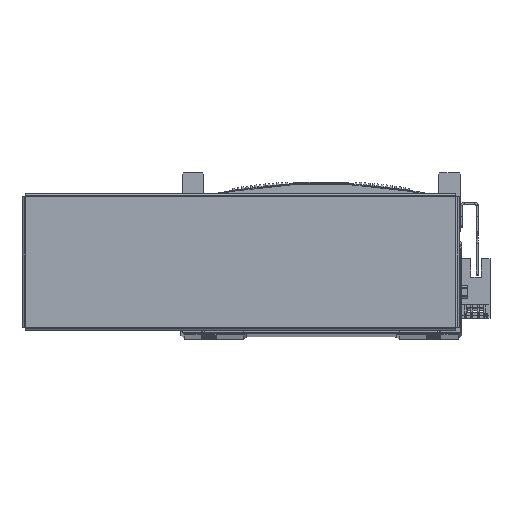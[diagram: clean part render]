
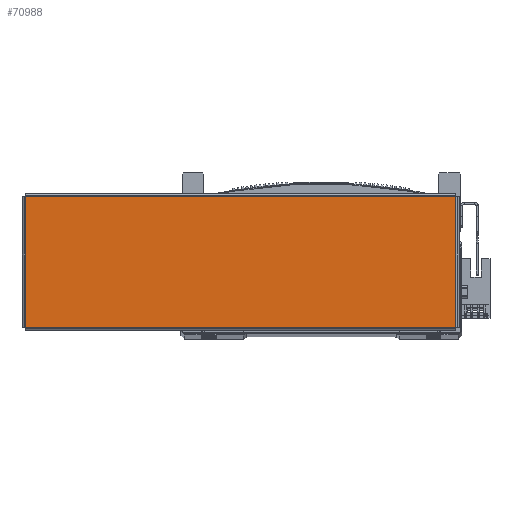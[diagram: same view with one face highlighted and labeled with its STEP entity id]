
A CAD part, top view. The second image highlights one B-rep face of the part: STEP entity #70988.
In plain terms, the highlighted planar face has unit normal (0, 0, 1) as drawn and (0, -1, 0) by its records, which use the part's own axes.
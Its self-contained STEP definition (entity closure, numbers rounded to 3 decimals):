
#6035 = VECTOR ( 'NONE', #7944, 1000. ) ;
#6046 = LINE ( 'NONE', #7883, #6035 ) ;
#6089 = LINE ( 'NONE', #7988, #6148 ) ;
#6110 = VECTOR ( 'NONE', #7929, 1000. ) ;
#6147 = LINE ( 'NONE', #7942, #6110 ) ;
#6148 = VECTOR ( 'NONE', #7992, 1000. ) ;
#6267 = LINE ( 'NONE', #8076, #6305 ) ;
#6305 = VECTOR ( 'NONE', #8069, 1000. ) ;
#7883 = CARTESIAN_POINT ( 'NONE',  ( 103.513, -1., -31.393 ) ) ;
#7929 = DIRECTION ( 'NONE',  ( -1., 0., 0. ) ) ;
#7942 = CARTESIAN_POINT ( 'NONE',  ( 103.543, -1., 31.363 ) ) ;
#7944 = DIRECTION ( 'NONE',  ( 0., 0., 1. ) ) ;
#7988 = CARTESIAN_POINT ( 'NONE',  ( -103.543, -1., -31.363 ) ) ;
#7992 = DIRECTION ( 'NONE',  ( 1., 0., 0. ) ) ;
#8069 = DIRECTION ( 'NONE',  ( 0., 0., -1. ) ) ;
#8076 = CARTESIAN_POINT ( 'NONE',  ( -103.513, -1., 31.393 ) ) ;
#26468 = CARTESIAN_POINT ( 'NONE',  ( 0., -1., 0. ) ) ;
#26605 = PLANE ( 'NONE',  #54349 ) ;
#26623 = DIRECTION ( 'NONE',  ( 0., 1., 0. ) ) ;
#26646 = DIRECTION ( 'NONE',  ( 0., 0., 1. ) ) ;
#29761 = FACE_OUTER_BOUND ( 'NONE', #70413, .T. ) ;
#30870 = ORIENTED_EDGE ( 'NONE', *, *, #71869, .T. ) ;
#30913 = ORIENTED_EDGE ( 'NONE', *, *, #71915, .T. ) ;
#30916 = ORIENTED_EDGE ( 'NONE', *, *, #71862, .T. ) ;
#30927 = ORIENTED_EDGE ( 'NONE', *, *, #71878, .T. ) ;
#36307 = CARTESIAN_POINT ( 'NONE',  ( 103.513, -1., -31.363 ) ) ;
#36315 = CARTESIAN_POINT ( 'NONE',  ( -103.513, -1., 31.363 ) ) ;
#36369 = CARTESIAN_POINT ( 'NONE',  ( -103.513, -1., -31.363 ) ) ;
#36376 = CARTESIAN_POINT ( 'NONE',  ( 103.513, -1., 31.363 ) ) ;
#49499 = VERTEX_POINT ( 'NONE', #36307 ) ;
#49502 = VERTEX_POINT ( 'NONE', #36315 ) ;
#49536 = VERTEX_POINT ( 'NONE', #36376 ) ;
#49537 = VERTEX_POINT ( 'NONE', #36369 ) ;
#54349 = AXIS2_PLACEMENT_3D ( 'NONE', #26468, #26623, #26646 ) ;
#70413 = EDGE_LOOP ( 'NONE', ( #30870, #30913, #30927, #30916 ) ) ;
#70988 = ADVANCED_FACE ( 'NONE', ( #29761 ), #26605, .F. ) ;
#71862 = EDGE_CURVE ( 'NONE', #49499, #49536, #6046, .T. ) ;
#71869 = EDGE_CURVE ( 'NONE', #49536, #49502, #6147, .T. ) ;
#71878 = EDGE_CURVE ( 'NONE', #49537, #49499, #6089, .T. ) ;
#71915 = EDGE_CURVE ( 'NONE', #49502, #49537, #6267, .T. ) ;
